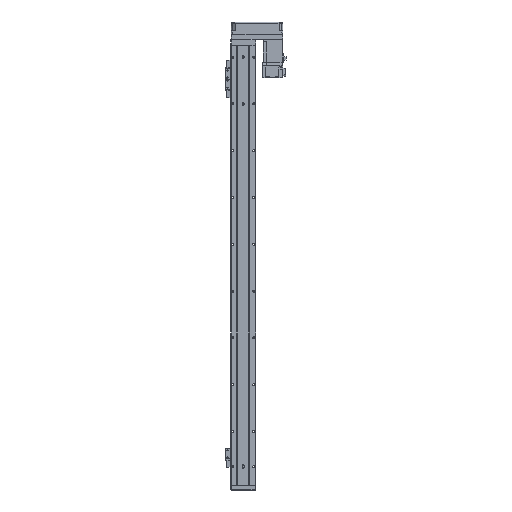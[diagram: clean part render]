
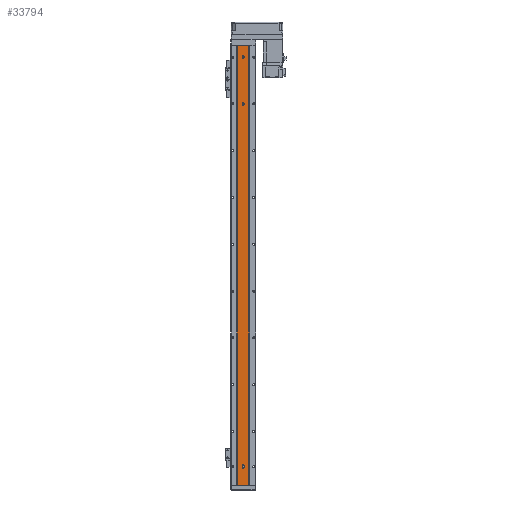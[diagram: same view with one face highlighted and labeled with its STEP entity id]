
A CAD part, front view. The second image highlights one B-rep face of the part: STEP entity #33794.
In plain terms, the highlighted planar face has unit normal (0, -1, 0).
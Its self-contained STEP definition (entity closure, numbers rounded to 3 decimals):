
#630 = LINE ( 'NONE', #2944, #16054 ) ;
#739 = VERTEX_POINT ( 'NONE', #33493 ) ;
#1034 = EDGE_LOOP ( 'NONE', ( #28556, #22598 ) ) ;
#1149 = ORIENTED_EDGE ( 'NONE', *, *, #33899, .F. ) ;
#1452 = EDGE_CURVE ( 'NONE', #8384, #35812, #31362, .T. ) ;
#1748 = CIRCLE ( 'NONE', #9253, 2.5 ) ;
#1786 = DIRECTION ( 'NONE',  ( 0., -1., 0. ) ) ;
#2944 = CARTESIAN_POINT ( 'NONE',  ( -2.5, 1.5, -940. ) ) ;
#3245 = DIRECTION ( 'NONE',  ( 0., -1., 0. ) ) ;
#3708 = CARTESIAN_POINT ( 'NONE',  ( 2.5, 1.5, -125. ) ) ;
#3979 = CARTESIAN_POINT ( 'NONE',  ( 2.5, 1.5, -901. ) ) ;
#4071 = VECTOR ( 'NONE', #28909, 1000. ) ;
#4424 = VERTEX_POINT ( 'NONE', #11784 ) ;
#4500 = VERTEX_POINT ( 'NONE', #3708 ) ;
#4623 = FACE_BOUND ( 'NONE', #15862, .T. ) ;
#5061 = VERTEX_POINT ( 'NONE', #12528 ) ;
#5111 = EDGE_CURVE ( 'NONE', #4500, #4424, #7087, .T. ) ;
#5292 = CARTESIAN_POINT ( 'NONE',  ( -12.293, 1.5, -940. ) ) ;
#5488 = VERTEX_POINT ( 'NONE', #5593 ) ;
#5593 = CARTESIAN_POINT ( 'NONE',  ( 12.293, 1.5, 0. ) ) ;
#6488 = FACE_BOUND ( 'NONE', #14420, .T. ) ;
#6776 = DIRECTION ( 'NONE',  ( 0., -1., 0. ) ) ;
#7087 = CIRCLE ( 'NONE', #10259, 2.5 ) ;
#7154 = DIRECTION ( 'NONE',  ( 0., 0., 1. ) ) ;
#7356 = EDGE_LOOP ( 'NONE', ( #16304, #8813, #38498, #20128 ) ) ;
#7556 = CARTESIAN_POINT ( 'NONE',  ( 0., 1.5, -25. ) ) ;
#7805 = VERTEX_POINT ( 'NONE', #29238 ) ;
#7956 = DIRECTION ( 'NONE',  ( 1., 0., 0. ) ) ;
#8384 = VERTEX_POINT ( 'NONE', #27580 ) ;
#8813 = ORIENTED_EDGE ( 'NONE', *, *, #17616, .F. ) ;
#9253 = AXIS2_PLACEMENT_3D ( 'NONE', #29174, #26311, #25922 ) ;
#9677 = ORIENTED_EDGE ( 'NONE', *, *, #27183, .F. ) ;
#9880 = CARTESIAN_POINT ( 'NONE',  ( 0., 1.5, -25. ) ) ;
#10259 = AXIS2_PLACEMENT_3D ( 'NONE', #36332, #6776, #27405 ) ;
#11224 = EDGE_CURVE ( 'NONE', #20776, #7805, #37570, .T. ) ;
#11784 = CARTESIAN_POINT ( 'NONE',  ( -2.5, 1.5, -125. ) ) ;
#12528 = CARTESIAN_POINT ( 'NONE',  ( -12.293, 1.5, 0. ) ) ;
#13670 = PLANE ( 'NONE',  #32775 ) ;
#13759 = CARTESIAN_POINT ( 'NONE',  ( 12.293, 1.5, -940. ) ) ;
#13826 = VERTEX_POINT ( 'NONE', #5292 ) ;
#13836 = CARTESIAN_POINT ( 'NONE',  ( 0., 1.5, -901. ) ) ;
#14198 = VECTOR ( 'NONE', #34329, 1000. ) ;
#14267 = AXIS2_PLACEMENT_3D ( 'NONE', #13836, #34751, #7956 ) ;
#14420 = EDGE_LOOP ( 'NONE', ( #20611, #1149 ) ) ;
#14979 = CARTESIAN_POINT ( 'NONE',  ( -2.5, 1.5, -899. ) ) ;
#15256 = CIRCLE ( 'NONE', #14267, 2.5 ) ;
#15700 = CARTESIAN_POINT ( 'NONE',  ( 12.293, 1.5, -940. ) ) ;
#15832 = AXIS2_PLACEMENT_3D ( 'NONE', #7556, #1786, #34719 ) ;
#15862 = EDGE_LOOP ( 'NONE', ( #17667, #9677, #27721, #29215 ) ) ;
#15984 = EDGE_CURVE ( 'NONE', #7805, #20776, #28052, .T. ) ;
#16054 = VECTOR ( 'NONE', #36139, 1000. ) ;
#16143 = DIRECTION ( 'NONE',  ( 0., -1., 0. ) ) ;
#16195 = LINE ( 'NONE', #25782, #4071 ) ;
#16283 = CARTESIAN_POINT ( 'NONE',  ( 2.5, 1.5, -940. ) ) ;
#16304 = ORIENTED_EDGE ( 'NONE', *, *, #26439, .F. ) ;
#16740 = FACE_BOUND ( 'NONE', #1034, .T. ) ;
#17136 = CARTESIAN_POINT ( 'NONE',  ( -2.5, 1.5, -25. ) ) ;
#17616 = EDGE_CURVE ( 'NONE', #13826, #5061, #36338, .T. ) ;
#17667 = ORIENTED_EDGE ( 'NONE', *, *, #34808, .F. ) ;
#19047 = CARTESIAN_POINT ( 'NONE',  ( -12.293, 1.5, -940. ) ) ;
#20128 = ORIENTED_EDGE ( 'NONE', *, *, #28836, .T. ) ;
#20611 = ORIENTED_EDGE ( 'NONE', *, *, #5111, .F. ) ;
#20735 = DIRECTION ( 'NONE',  ( 1., 0., 0. ) ) ;
#20776 = VERTEX_POINT ( 'NONE', #17136 ) ;
#20783 = EDGE_CURVE ( 'NONE', #13826, #25035, #37627, .T. ) ;
#22413 = CARTESIAN_POINT ( 'NONE',  ( 12.293, 1.5, -940. ) ) ;
#22598 = ORIENTED_EDGE ( 'NONE', *, *, #11224, .F. ) ;
#23849 = VERTEX_POINT ( 'NONE', #3979 ) ;
#24004 = VECTOR ( 'NONE', #31766, 1000. ) ;
#25035 = VERTEX_POINT ( 'NONE', #15700 ) ;
#25526 = DIRECTION ( 'NONE',  ( 0., -1., 0. ) ) ;
#25782 = CARTESIAN_POINT ( 'NONE',  ( 12.293, 1.5, 0. ) ) ;
#25922 = DIRECTION ( 'NONE',  ( 1., 0., 0. ) ) ;
#26237 = AXIS2_PLACEMENT_3D ( 'NONE', #29987, #3245, #20735 ) ;
#26299 = AXIS2_PLACEMENT_3D ( 'NONE', #9880, #16143, #27902 ) ;
#26311 = DIRECTION ( 'NONE',  ( 0., -1., 0. ) ) ;
#26439 = EDGE_CURVE ( 'NONE', #5061, #5488, #16195, .T. ) ;
#26840 = LINE ( 'NONE', #35995, #33878 ) ;
#27005 = EDGE_CURVE ( 'NONE', #23849, #8384, #34807, .T. ) ;
#27183 = EDGE_CURVE ( 'NONE', #35812, #739, #630, .T. ) ;
#27405 = DIRECTION ( 'NONE',  ( 1., 0., 0. ) ) ;
#27580 = CARTESIAN_POINT ( 'NONE',  ( 2.5, 1.5, -899. ) ) ;
#27721 = ORIENTED_EDGE ( 'NONE', *, *, #1452, .F. ) ;
#27902 = DIRECTION ( 'NONE',  ( 1., 0., 0. ) ) ;
#28052 = CIRCLE ( 'NONE', #26299, 2.5 ) ;
#28556 = ORIENTED_EDGE ( 'NONE', *, *, #15984, .F. ) ;
#28836 = EDGE_CURVE ( 'NONE', #25035, #5488, #26840, .T. ) ;
#28909 = DIRECTION ( 'NONE',  ( 1., 0., 0. ) ) ;
#29174 = CARTESIAN_POINT ( 'NONE',  ( 0., 1.5, -125. ) ) ;
#29215 = ORIENTED_EDGE ( 'NONE', *, *, #27005, .F. ) ;
#29238 = CARTESIAN_POINT ( 'NONE',  ( 2.5, 1.5, -25. ) ) ;
#29987 = CARTESIAN_POINT ( 'NONE',  ( 0., 1.5, -899. ) ) ;
#30232 = VECTOR ( 'NONE', #7154, 1000. ) ;
#31362 = CIRCLE ( 'NONE', #26237, 2.5 ) ;
#31766 = DIRECTION ( 'NONE',  ( 1., 0., 0. ) ) ;
#32775 = AXIS2_PLACEMENT_3D ( 'NONE', #22413, #25526, #34585 ) ;
#33493 = CARTESIAN_POINT ( 'NONE',  ( -2.5, 1.5, -901. ) ) ;
#33794 = ADVANCED_FACE ( 'NONE', ( #4623, #6488, #16740, #35452 ), #13670, .T. ) ;
#33878 = VECTOR ( 'NONE', #36266, 1000. ) ;
#33899 = EDGE_CURVE ( 'NONE', #4424, #4500, #1748, .T. ) ;
#34329 = DIRECTION ( 'NONE',  ( 0., 0., 1. ) ) ;
#34585 = DIRECTION ( 'NONE',  ( 1., 0., 0. ) ) ;
#34719 = DIRECTION ( 'NONE',  ( 1., 0., 0. ) ) ;
#34751 = DIRECTION ( 'NONE',  ( 0., -1., 0. ) ) ;
#34807 = LINE ( 'NONE', #16283, #14198 ) ;
#34808 = EDGE_CURVE ( 'NONE', #739, #23849, #15256, .T. ) ;
#35452 = FACE_OUTER_BOUND ( 'NONE', #7356, .T. ) ;
#35812 = VERTEX_POINT ( 'NONE', #14979 ) ;
#35995 = CARTESIAN_POINT ( 'NONE',  ( 12.293, 1.5, -940. ) ) ;
#36139 = DIRECTION ( 'NONE',  ( 0., 0., -1. ) ) ;
#36266 = DIRECTION ( 'NONE',  ( 0., 0., 1. ) ) ;
#36332 = CARTESIAN_POINT ( 'NONE',  ( 0., 1.5, -125. ) ) ;
#36338 = LINE ( 'NONE', #19047, #30232 ) ;
#37570 = CIRCLE ( 'NONE', #15832, 2.5 ) ;
#37627 = LINE ( 'NONE', #13759, #24004 ) ;
#38498 = ORIENTED_EDGE ( 'NONE', *, *, #20783, .T. ) ;
